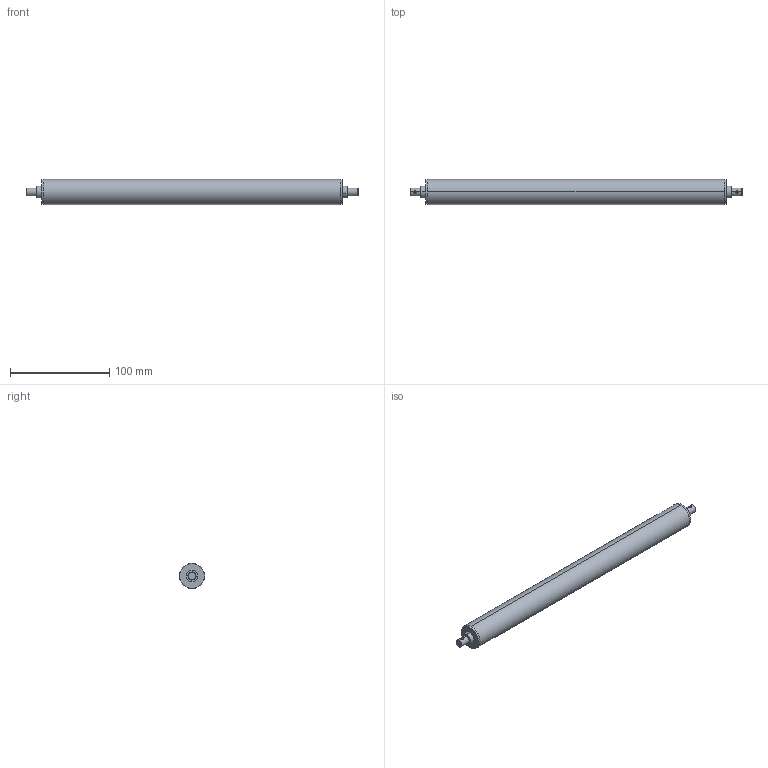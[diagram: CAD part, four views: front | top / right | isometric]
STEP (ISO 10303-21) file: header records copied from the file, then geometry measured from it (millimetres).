
FILE_DESCRIPTION (( 'STEP AP203' ), '1' );
FILE_NAME ('HR-2512.STEP', '2022-03-25T00:25:26', ( 'Microsoft' ), ( 'Microsoft' ), 'SwSTEP 2.0', 'SolidWorks 2020', '' );
FILE_SCHEMA (( 'CONFIG_CONTROL_DESIGN' ));
Length unit declared in the file: millimetre
Products named in the file (4): HR-2512芠极; HR-2512粣創釱; HR-2512; HR-2512粣
Assembly tree (4 placements, depth 2):
  HR-2512
    HR-2512粣
    HR-2512芠极
    HR-2512粣創釱  x2
Bounding box: 335 x 25.4 x 25.4 mm (x, y, z)
Volume: 51006.3 mm3; surface area: 60760.3 mm2
Topology: 28 solids, 28 shells, 122 faces, 322 edges, 212 vertices
Faces by surface type: sphere 48, cylinder 42, plane 16, torus 12, cone 4
Entity records: 2304 total; most frequent: CARTESIAN_POINT 441, DIRECTION 348, ORIENTED_EDGE 244, AXIS2_PLACEMENT_3D 157, EDGE_CURVE 122, VERTEX_POINT 82, CIRCLE 80, EDGE_LOOP 78
